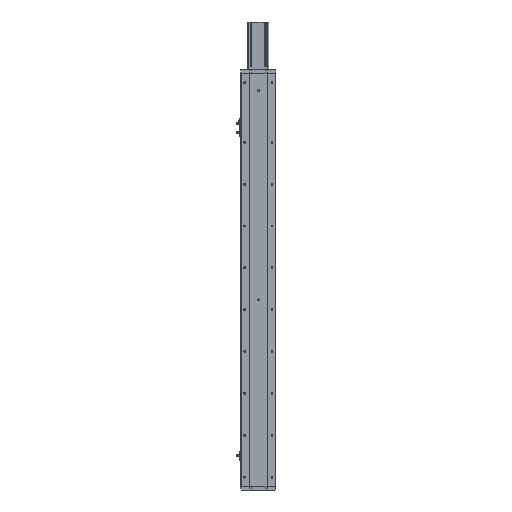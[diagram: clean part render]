
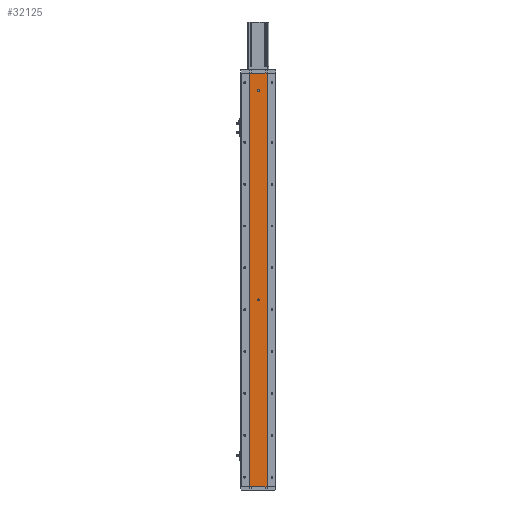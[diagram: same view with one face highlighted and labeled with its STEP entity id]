
A CAD part, left-side view. The second image highlights one B-rep face of the part: STEP entity #32125.
In plain terms, the highlighted planar face has unit normal (-1, 0, 0).
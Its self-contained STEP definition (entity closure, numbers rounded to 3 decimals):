
#545 = CARTESIAN_POINT ( 'NONE',  ( -18.926, 24.785, 1185. ) ) ;
#906 = CARTESIAN_POINT ( 'NONE',  ( -18.926, -24.785, 1185. ) ) ;
#1767 = CARTESIAN_POINT ( 'NONE',  ( -18.926, 24.785, 1185. ) ) ;
#2103 = EDGE_CURVE ( 'NONE', #33177, #17900, #3758, .T. ) ;
#2278 = FACE_BOUND ( 'NONE', #7597, .T. ) ;
#3017 = CARTESIAN_POINT ( 'NONE',  ( -18.926, 0., 1135. ) ) ;
#3488 = CARTESIAN_POINT ( 'NONE',  ( -18.926, 0., 1135. ) ) ;
#3549 = DIRECTION ( 'NONE',  ( -1., 0., 0. ) ) ;
#3758 = CIRCLE ( 'NONE', #41732, 3. ) ;
#3974 = DIRECTION ( 'NONE',  ( 0., 0., -1. ) ) ;
#6332 = EDGE_CURVE ( 'NONE', #33275, #16859, #17834, .T. ) ;
#6461 = DIRECTION ( 'NONE',  ( 0., 0., 1. ) ) ;
#6780 = VERTEX_POINT ( 'NONE', #6960 ) ;
#6900 = DIRECTION ( 'NONE',  ( 0., 0., 1. ) ) ;
#6960 = CARTESIAN_POINT ( 'NONE',  ( -18.926, 24.785, 0. ) ) ;
#7597 = EDGE_LOOP ( 'NONE', ( #40773, #27755 ) ) ;
#7616 = EDGE_CURVE ( 'NONE', #16825, #15928, #21379, .T. ) ;
#8072 = EDGE_LOOP ( 'NONE', ( #39406, #42793 ) ) ;
#8192 = AXIS2_PLACEMENT_3D ( 'NONE', #3017, #26922, #6461 ) ;
#9550 = EDGE_CURVE ( 'NONE', #15928, #16825, #19281, .T. ) ;
#10634 = PLANE ( 'NONE',  #33952 ) ;
#10789 = EDGE_CURVE ( 'NONE', #16859, #25886, #19089, .T. ) ;
#11533 = DIRECTION ( 'NONE',  ( 0., -1., 0. ) ) ;
#12435 = FACE_BOUND ( 'NONE', #8072, .T. ) ;
#12639 = ORIENTED_EDGE ( 'NONE', *, *, #32029, .T. ) ;
#13455 = ORIENTED_EDGE ( 'NONE', *, *, #10789, .F. ) ;
#13473 = EDGE_CURVE ( 'NONE', #6780, #25886, #18897, .T. ) ;
#14624 = CARTESIAN_POINT ( 'NONE',  ( -18.926, 0., 1132. ) ) ;
#15928 = VERTEX_POINT ( 'NONE', #14624 ) ;
#15996 = CARTESIAN_POINT ( 'NONE',  ( -18.926, 0., 532. ) ) ;
#16740 = VECTOR ( 'NONE', #41602, 1000. ) ;
#16825 = VERTEX_POINT ( 'NONE', #20460 ) ;
#16859 = VERTEX_POINT ( 'NONE', #20614 ) ;
#17794 = LINE ( 'NONE', #34096, #34913 ) ;
#17813 = VECTOR ( 'NONE', #11533, 1000. ) ;
#17834 = LINE ( 'NONE', #24483, #16740 ) ;
#17900 = VERTEX_POINT ( 'NONE', #15996 ) ;
#17931 = EDGE_CURVE ( 'NONE', #17900, #33177, #28487, .T. ) ;
#18897 = LINE ( 'NONE', #35438, #17813 ) ;
#19089 = LINE ( 'NONE', #906, #20149 ) ;
#19281 = CIRCLE ( 'NONE', #39415, 3. ) ;
#19604 = DIRECTION ( 'NONE',  ( -1., 0., 0. ) ) ;
#20149 = VECTOR ( 'NONE', #38449, 1000. ) ;
#20460 = CARTESIAN_POINT ( 'NONE',  ( -18.926, 0., 1138. ) ) ;
#20614 = CARTESIAN_POINT ( 'NONE',  ( -18.926, -24.785, 1185. ) ) ;
#21379 = CIRCLE ( 'NONE', #8192, 3. ) ;
#22356 = ORIENTED_EDGE ( 'NONE', *, *, #13473, .T. ) ;
#23968 = CARTESIAN_POINT ( 'NONE',  ( -18.926, 0., 535. ) ) ;
#24402 = DIRECTION ( 'NONE',  ( 1., 0., 0. ) ) ;
#24483 = CARTESIAN_POINT ( 'NONE',  ( -18.926, 24.785, 1185. ) ) ;
#25886 = VERTEX_POINT ( 'NONE', #39379 ) ;
#26922 = DIRECTION ( 'NONE',  ( -1., 0., 0. ) ) ;
#27372 = DIRECTION ( 'NONE',  ( -1., 0., 0. ) ) ;
#27423 = DIRECTION ( 'NONE',  ( 0., 0., 1. ) ) ;
#27755 = ORIENTED_EDGE ( 'NONE', *, *, #9550, .F. ) ;
#28487 = CIRCLE ( 'NONE', #29433, 3. ) ;
#29433 = AXIS2_PLACEMENT_3D ( 'NONE', #40058, #19604, #43442 ) ;
#29535 = FACE_OUTER_BOUND ( 'NONE', #35929, .T. ) ;
#32029 = EDGE_CURVE ( 'NONE', #33275, #6780, #17794, .T. ) ;
#32125 = ADVANCED_FACE ( 'NONE', ( #12435, #2278, #29535 ), #10634, .F. ) ;
#33177 = VERTEX_POINT ( 'NONE', #38766 ) ;
#33275 = VERTEX_POINT ( 'NONE', #1767 ) ;
#33952 = AXIS2_PLACEMENT_3D ( 'NONE', #545, #24402, #3974 ) ;
#34096 = CARTESIAN_POINT ( 'NONE',  ( -18.926, 24.785, 1185. ) ) ;
#34913 = VECTOR ( 'NONE', #40802, 1000. ) ;
#35438 = CARTESIAN_POINT ( 'NONE',  ( -18.926, 24.785, 0. ) ) ;
#35929 = EDGE_LOOP ( 'NONE', ( #22356, #13455, #36605, #12639 ) ) ;
#36605 = ORIENTED_EDGE ( 'NONE', *, *, #6332, .F. ) ;
#38449 = DIRECTION ( 'NONE',  ( 0., 0., -1. ) ) ;
#38766 = CARTESIAN_POINT ( 'NONE',  ( -18.926, 0., 538. ) ) ;
#39379 = CARTESIAN_POINT ( 'NONE',  ( -18.926, -24.785, 0. ) ) ;
#39406 = ORIENTED_EDGE ( 'NONE', *, *, #2103, .F. ) ;
#39415 = AXIS2_PLACEMENT_3D ( 'NONE', #3488, #27372, #6900 ) ;
#40058 = CARTESIAN_POINT ( 'NONE',  ( -18.926, 0., 535. ) ) ;
#40773 = ORIENTED_EDGE ( 'NONE', *, *, #7616, .F. ) ;
#40802 = DIRECTION ( 'NONE',  ( 0., 0., -1. ) ) ;
#41602 = DIRECTION ( 'NONE',  ( 0., -1., 0. ) ) ;
#41732 = AXIS2_PLACEMENT_3D ( 'NONE', #23968, #3549, #27423 ) ;
#42793 = ORIENTED_EDGE ( 'NONE', *, *, #17931, .F. ) ;
#43442 = DIRECTION ( 'NONE',  ( 0., 0., 1. ) ) ;
